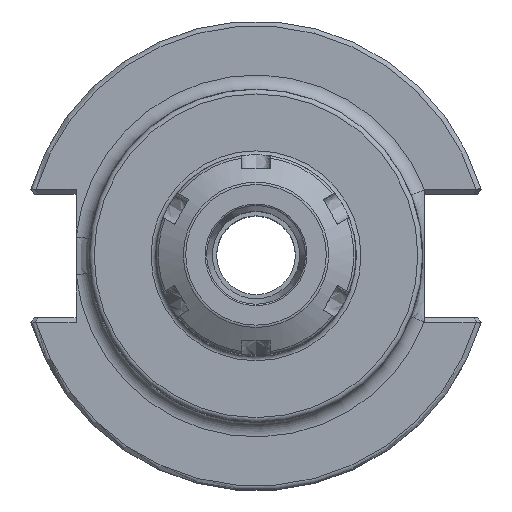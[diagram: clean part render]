
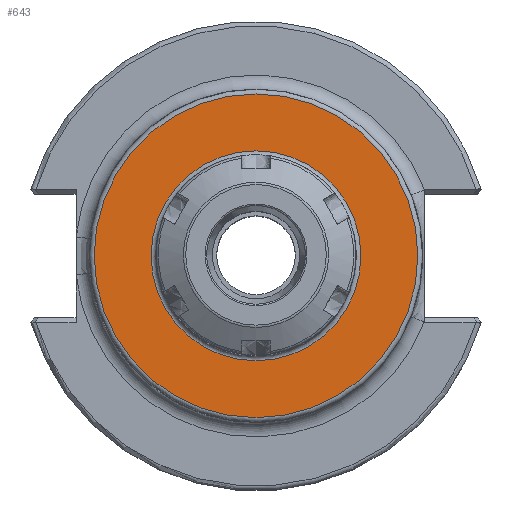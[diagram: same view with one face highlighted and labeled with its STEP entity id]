
A CAD part, top view. The second image highlights one B-rep face of the part: STEP entity #643.
In plain terms, the highlighted planar face has unit normal (0, 0, 1).
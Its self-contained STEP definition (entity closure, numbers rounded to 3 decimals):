
#333=FACE_BOUND('',#918,.T.);
#334=FACE_BOUND('',#919,.T.);
#503=PLANE('',#3037);
#643=ADVANCED_FACE('',(#333,#334),#503,.T.);
#918=EDGE_LOOP('',(#1890));
#919=EDGE_LOOP('',(#1891));
#1111=CIRCLE('',#3035,22.);
#1112=CIRCLE('',#3036,33.925);
#1890=ORIENTED_EDGE('',*,*,#2696,.T.);
#1891=ORIENTED_EDGE('',*,*,#2697,.T.);
#2364=VERTEX_POINT('',#5104);
#2365=VERTEX_POINT('',#5106);
#2696=EDGE_CURVE('',#2364,#2364,#1111,.T.);
#2697=EDGE_CURVE('',#2365,#2365,#1112,.T.);
#3035=AXIS2_PLACEMENT_3D('',#5103,#3568,#3569);
#3036=AXIS2_PLACEMENT_3D('',#5105,#3570,#3571);
#3037=AXIS2_PLACEMENT_3D('',#5107,#3572,#3573);
#3568=DIRECTION('',(0.,0.,-1.));
#3569=DIRECTION('',(1.,0.,0.));
#3570=DIRECTION('',(0.,0.,1.));
#3571=DIRECTION('',(1.,0.,0.));
#3572=DIRECTION('',(0.,0.,1.));
#3573=DIRECTION('',(-1.,0.,0.));
#5103=CARTESIAN_POINT('',(0.,0.,85.85));
#5104=CARTESIAN_POINT('',(22.,0.,85.85));
#5105=CARTESIAN_POINT('',(0.,0.,85.85));
#5106=CARTESIAN_POINT('',(33.925,0.,85.85));
#5107=CARTESIAN_POINT('',(0.,-34.925,85.85));
